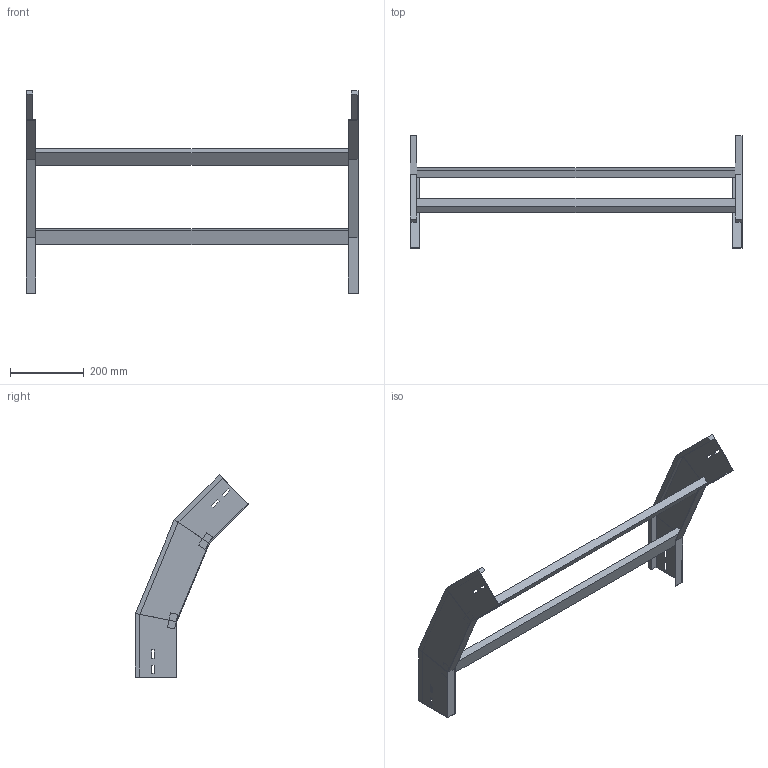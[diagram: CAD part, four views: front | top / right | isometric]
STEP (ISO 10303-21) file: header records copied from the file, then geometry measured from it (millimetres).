
FILE_DESCRIPTION (( 'STEP AP214' ), '1' );
FILE_NAME ('A2_34B3J900.step', '2025-02-21T14:53:35', ( '' ), ( '' ), 'SwSTEP 2.0', 'SolidWorks 2023', '' );
FILE_SCHEMA (( 'AUTOMOTIVE_DESIGN' ));
Length unit declared in the file: millimetre
Products named in the file (3): A2_34B3J900; TRAVERSINO_900; LONGH.DISCESA_45°_H112.5_R300
Assembly tree (5 placements, depth 2):
  A2_34B3J900
    LONGH.DISCESA_45°_H112.5_R300  x2
    TRAVERSINO_900  x3
Bounding box: 900 x 306.58 x 548.11 mm (x, y, z)
Volume: 2722594.3 mm3; surface area: 686100.6 mm2
Topology: 5 solids, 5 shells, 102 faces, 244 edges, 152 vertices
Faces by surface type: plane 102
Entity records: 1480 total; most frequent: CARTESIAN_POINT 244, ORIENTED_EDGE 232, DIRECTION 228, EDGE_CURVE 116, LINE 116, VECTOR 116, VERTEX_POINT 72, AXIS2_PLACEMENT_3D 56
